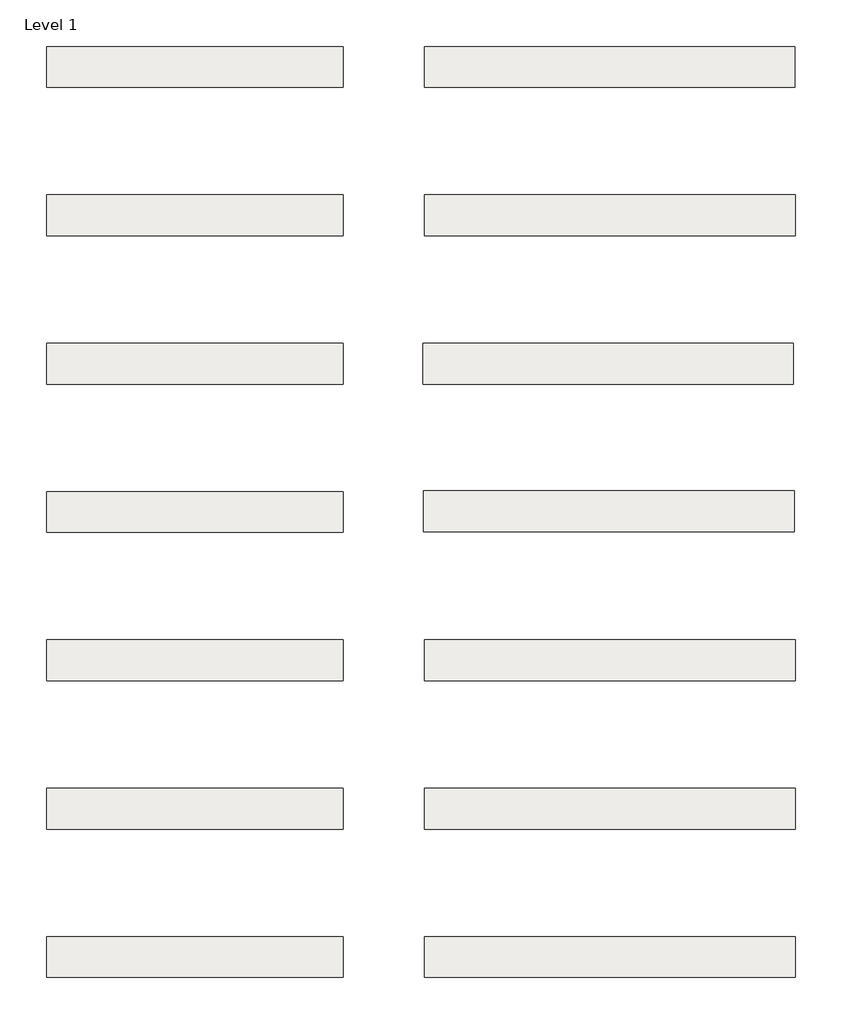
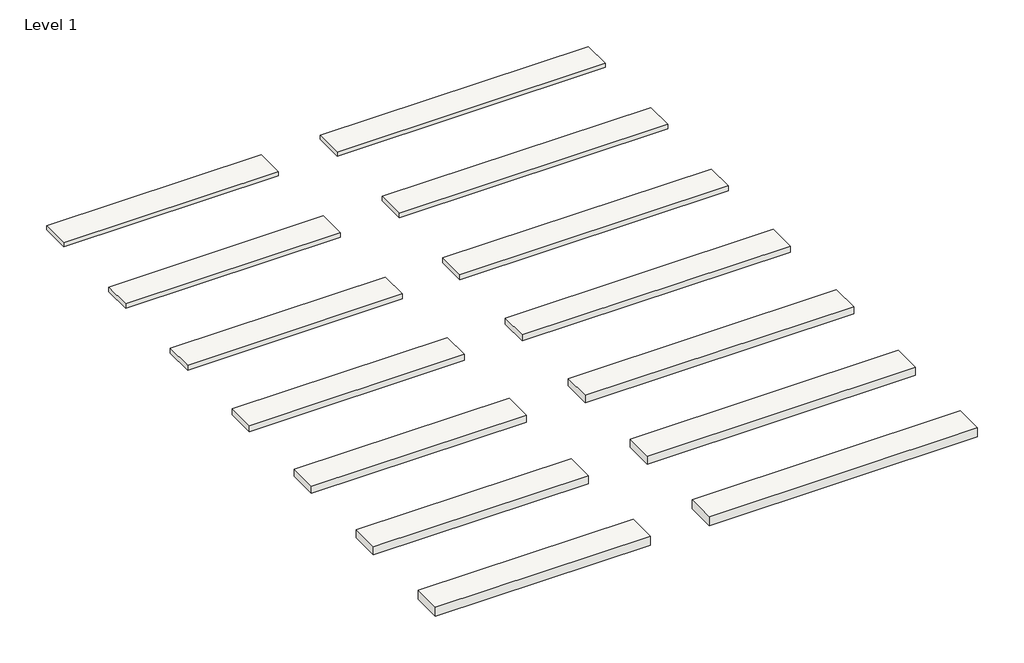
# One storey: 14 roofs.
"""IFC4 building model written with IfcOpenShell, lengths in millimetres."""

from ifc_helpers import new_model, si_unit, origin, origin_with_axes, place, context, project, spatial, polyline, outline, extrude, element, save

model = new_model("IFC4")

# Units and contexts
model_context = context("Model", 3, world=origin())
ifc_project = project(units=[si_unit("LENGTHUNIT", "METRE", prefix="MILLI")], contexts=[model_context])

# Site, building, storey
site = spatial("IfcSite", under=ifc_project)
building = spatial("IfcBuilding", under=site)
storey = spatial("IfcBuildingStorey", under=building, Name="Level 1", Elevation=0.0)

# Roofs
placement = place(None, origin())
element("IfcRoof", 1, ObjectType="Panel Thermochip THH GF 19-50-19 (4000x550)", at=placement, inside=storey, context=model_context, shape_type="SweptSolid", body=[
    extrude(outline(polyline([(-12578.9678788, 4399.8223879), (-8578.9678788, 4399.8223879), (-8578.9678788, 3849.8223879), (-12578.9678788, 3849.8223879), (-12578.9678788, 4399.8223879)])), origin_with_axes(), (0.0, 0.0, 1.0), 88.0),
])
element("IfcRoof", 2, ObjectType="Panel Thermochip THH GF 19-40-19 (4000x550)", at=placement, inside=storey, context=model_context, shape_type="SweptSolid", body=[
    extrude(outline(polyline([(-12578.9678788, 6399.8223879), (-8578.9678788, 6399.8223879), (-8578.9678788, 5849.8223879), (-12578.9678788, 5849.8223879), (-12578.9678788, 6399.8223879)])), origin_with_axes(), (0.0, 0.0, 1.0), 78.0),
])
element("IfcRoof", 3, ObjectType="Panel Thermochip THH GF 19-100-19 (4000x550)", at=placement, inside=storey, context=model_context, shape_type="SweptSolid", body=[
    extrude(outline(polyline([(-12578.9678788, -1600.1776121), (-8578.9678788, -1600.1776121), (-8578.9678788, -2150.1776121), (-12578.9678788, -2150.1776121), (-12578.9678788, -1600.1776121)])), origin_with_axes(), (0.0, 0.0, 1.0), 138.0),
])
element("IfcRoof", 4, ObjectType="Panel Thermochip THH GF 19-120-19 (4000x550)", at=placement, inside=storey, context=model_context, shape_type="SweptSolid", body=[
    extrude(outline(polyline([(-12578.9678788, -3600.1776121), (-8578.9678788, -3600.1776121), (-8578.9678788, -4150.1776121), (-12578.9678788, -4150.1776121), (-12578.9678788, -3600.1776121)])), origin_with_axes(), (0.0, 0.0, 1.0), 158.0),
])
element("IfcRoof", 5, ObjectType="Panel Thermochip THH GF 19-140-19 (4000x550)", at=placement, inside=storey, context=model_context, shape_type="SweptSolid", body=[
    extrude(outline(polyline([(-12578.9678788, -5600.1776121), (-8578.9678788, -5600.1776121), (-8578.9678788, -6150.1776121), (-12578.9678788, -6150.1776121), (-12578.9678788, -5600.1776121)])), origin_with_axes(), (0.0, 0.0, 1.0), 178.0),
])
element("IfcRoof", 6, ObjectType="Panel Thermochip THH GF 19-140-19 (5000x550)", at=placement, inside=storey, context=model_context, shape_type="SweptSolid", body=[
    extrude(outline(polyline([(-7478.9678788, -5600.1776121), (-2478.9678788, -5600.1776121), (-2478.9678788, -6150.1776121), (-7478.9678788, -6150.1776121), (-7478.9678788, -5600.1776121)])), origin_with_axes(), (0.0, 0.0, 1.0), 178.0),
])
element("IfcRoof", 7, ObjectType="Panel Thermochip THH GF 19-120-19 (5000x550)", at=placement, inside=storey, context=model_context, shape_type="SweptSolid", body=[
    extrude(outline(polyline([(-7478.9678788, -3600.1776121), (-2478.9678788, -3600.1776121), (-2478.9678788, -4150.1776121), (-7478.9678788, -4150.1776121), (-7478.9678788, -3600.1776121)])), origin_with_axes(), (0.0, 0.0, 1.0), 158.0),
])
element("IfcRoof", 8, ObjectType="Panel Thermochip THH GF 19-100-19 (5000x550)", at=placement, inside=storey, context=model_context, shape_type="SweptSolid", body=[
    extrude(outline(polyline([(-7478.9678788, -1600.1776121), (-2478.9678788, -1600.1776121), (-2478.9678788, -2150.1776121), (-7478.9678788, -2150.1776121), (-7478.9678788, -1600.1776121)])), origin_with_axes(), (0.0, 0.0, 1.0), 138.0),
])
element("IfcRoof", 9, ObjectType="Panel Thermochip THH GF 19-80-19 (5000x550)", at=placement, inside=storey, context=model_context, shape_type="SweptSolid", body=[
    extrude(outline(polyline([(-7493.9257413, 408.4259487), (-2493.9257413, 408.4259487), (-2493.9257413, -141.5740513), (-7493.9257413, -141.5740513), (-7493.9257413, 408.4259487)])), origin_with_axes(), (0.0, 0.0, 1.0), 118.0),
])
element("IfcRoof", 10, ObjectType="Panel Thermochip THH GF 19-60-19 GF (5000x550)", at=placement, inside=storey, context=model_context, shape_type="SweptSolid", body=[
    extrude(outline(polyline([(-7503.2304923, 2399.8223879), (-2503.2304923, 2399.8223879), (-2503.2304923, 1849.8223879), (-7503.2304923, 1849.8223879), (-7503.2304923, 2399.8223879)])), origin_with_axes(), (0.0, 0.0, 1.0), 98.0),
])
element("IfcRoof", 11, ObjectType="Panel Thermochip THH GF 19-50-19 (5000x550)", at=placement, inside=storey, context=model_context, shape_type="SweptSolid", body=[
    extrude(outline(polyline([(-7478.9678788, 4399.8223879), (-2478.9678788, 4399.8223879), (-2478.9678788, 3849.8223879), (-7478.9678788, 3849.8223879), (-7478.9678788, 4399.8223879)])), origin_with_axes(), (0.0, 0.0, 1.0), 88.0),
])
element("IfcRoof", 12, ObjectType="Panel Thermochip THH GF 19-40-19 (5000x550)", at=placement, inside=storey, context=model_context, shape_type="SweptSolid", body=[
    extrude(outline(polyline([(-7482.0170533, 6399.8223879), (-2482.0170533, 6399.8223879), (-2482.0170533, 5849.8223879), (-7482.0170533, 5849.8223879), (-7482.0170533, 6399.8223879)])), origin_with_axes(), (0.0, 0.0, 1.0), 78.0),
])
element("IfcRoof", 13, ObjectType="Panel Thermochip THH GF 19-80-19 (4000x550)", at=placement, inside=storey, context=model_context, shape_type="SweptSolid", body=[
    extrude(outline(polyline([(-12578.9678788, 399.8223879), (-8578.9678788, 399.8223879), (-8578.9678788, -150.1776121), (-12578.9678788, -150.1776121), (-12578.9678788, 399.8223879)])), origin_with_axes(), (0.0, 0.0, 1.0), 118.0),
])
element("IfcRoof", 14, ObjectType="Panel Thermochip THH GF 19-60-19 (4000x550)", at=placement, inside=storey, context=model_context, shape_type="SweptSolid", body=[
    extrude(outline(polyline([(-12578.9678788, 2399.8223879), (-8578.9678788, 2399.8223879), (-8578.9678788, 1849.8223879), (-12578.9678788, 1849.8223879), (-12578.9678788, 2399.8223879)])), origin_with_axes(), (0.0, 0.0, 1.0), 98.0),
])

save(model, "model.ifc")
